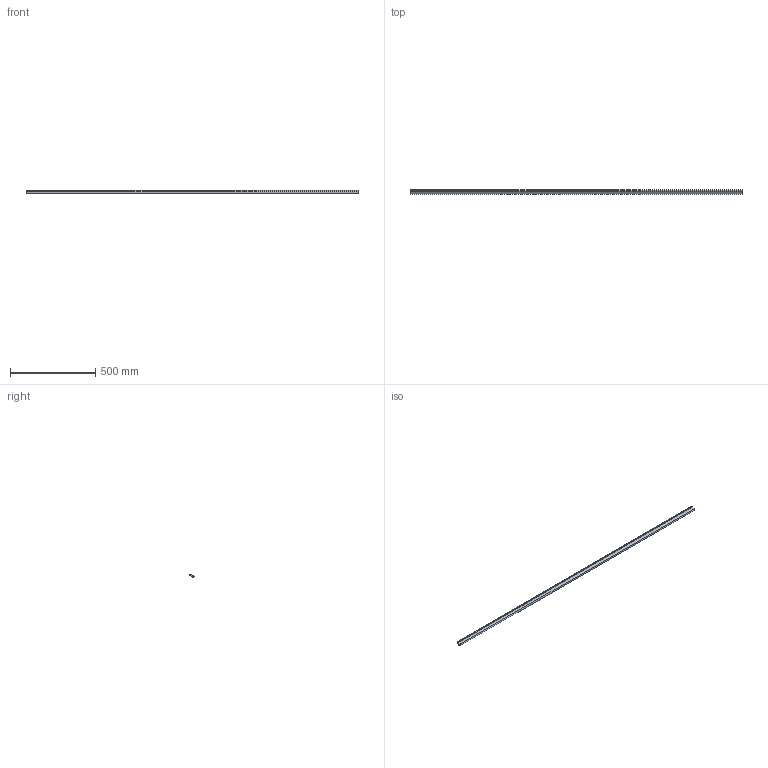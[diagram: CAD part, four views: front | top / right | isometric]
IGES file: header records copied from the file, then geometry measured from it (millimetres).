
Start section: Data from Parasolid IGES Translator 15.0.47, Copyright(c) 2006 Siemens P LM Software. All Rights Reserved.
Global section: file name: 115105.igs; native system:  By UGS Corp.; preprocessor: XPlus GENERIC/IGES 3.0; author: Noname; organization: Noname; date: 20140122.143740; units: millimetre
Bounding box: 1950 x 24 x 19.77 mm (x, y, z)
Surface area: 138835.9 mm2 (no closed solid volume)
Topology: 0 solids, 0 shells, 23 faces, 90 edges, 80 vertices
Faces by surface type: extrusion 13, revolution 10
